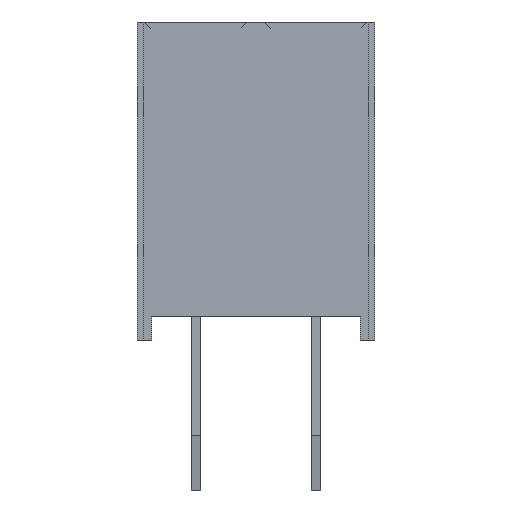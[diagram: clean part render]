
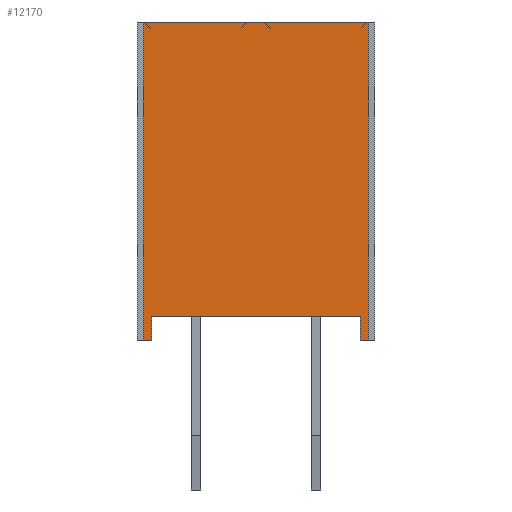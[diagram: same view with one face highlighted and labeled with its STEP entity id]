
A CAD part, left-side view. The second image highlights one B-rep face of the part: STEP entity #12170.
In plain terms, the highlighted planar face has unit normal (-1, 0, 0).
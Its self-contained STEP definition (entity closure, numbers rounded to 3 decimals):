
#112=DIRECTION('',(0.,-1.,0.));
#113=VECTOR('',#112,4.775);
#114=CARTESIAN_POINT('',(-35.56,2.388,0.));
#115=LINE('',#114,#113);
#1024=DIRECTION('',(0.,0.,1.));
#1025=VECTOR('',#1024,0.508);
#1026=CARTESIAN_POINT('',(-35.56,2.21,-6.731));
#1027=LINE('',#1026,#1025);
#1028=DIRECTION('',(0.,0.,-1.));
#1029=VECTOR('',#1028,6.731);
#1030=CARTESIAN_POINT('',(-35.56,2.388,0.));
#1031=LINE('',#1030,#1029);
#1032=DIRECTION('',(0.,0.,1.));
#1033=VECTOR('',#1032,0.508);
#1034=CARTESIAN_POINT('',(-35.56,-2.21,-6.731));
#1035=LINE('',#1034,#1033);
#1036=DIRECTION('',(0.,-1.,0.));
#1037=VECTOR('',#1036,4.42);
#1038=CARTESIAN_POINT('',(-35.56,2.21,-6.223));
#1039=LINE('',#1038,#1037);
#1068=DIRECTION('',(0.,-1.,0.));
#1069=VECTOR('',#1068,0.178);
#1070=CARTESIAN_POINT('',(-35.56,2.388,-6.731));
#1071=LINE('',#1070,#1069);
#1076=DIRECTION('',(0.,-1.,0.));
#1077=VECTOR('',#1076,0.178);
#1078=CARTESIAN_POINT('',(-35.56,-2.21,-6.731));
#1079=LINE('',#1078,#1077);
#5176=DIRECTION('',(0.,0.,-1.));
#5177=VECTOR('',#5176,6.731);
#5178=CARTESIAN_POINT('',(-35.56,-2.388,0.));
#5179=LINE('',#5178,#5177);
#8780=CARTESIAN_POINT('',(-35.56,2.388,0.));
#8781=VERTEX_POINT('',#8780);
#8782=CARTESIAN_POINT('',(-35.56,-2.388,0.));
#8783=VERTEX_POINT('',#8782);
#8804=CARTESIAN_POINT('',(-35.56,2.388,-6.731));
#8805=VERTEX_POINT('',#8804);
#8806=CARTESIAN_POINT('',(-35.56,-2.388,-6.731));
#8808=VERTEX_POINT('',#8806);
#9016=CARTESIAN_POINT('',(-35.56,2.21,-6.731));
#9018=VERTEX_POINT('',#9016);
#9020=CARTESIAN_POINT('',(-35.56,-2.21,-6.731));
#9022=VERTEX_POINT('',#9020);
#9024=CARTESIAN_POINT('',(-35.56,2.21,-6.223));
#9025=VERTEX_POINT('',#9024);
#9026=CARTESIAN_POINT('',(-35.56,-2.21,-6.223));
#9027=VERTEX_POINT('',#9026);
#12149=CARTESIAN_POINT('',(-35.56,2.388,0.));
#12150=DIRECTION('',(-1.,0.,0.));
#12151=DIRECTION('',(0.,-1.,0.));
#12152=AXIS2_PLACEMENT_3D('',#12149,#12150,#12151);
#12153=PLANE('',#12152);
#12155=ORIENTED_EDGE('',*,*,#12154,.F.);
#12157=ORIENTED_EDGE('',*,*,#12156,.F.);
#12158=ORIENTED_EDGE('',*,*,#12141,.F.);
#12159=ORIENTED_EDGE('',*,*,#11553,.T.);
#12161=ORIENTED_EDGE('',*,*,#12160,.T.);
#12163=ORIENTED_EDGE('',*,*,#12162,.F.);
#12165=ORIENTED_EDGE('',*,*,#12164,.T.);
#12167=ORIENTED_EDGE('',*,*,#12166,.F.);
#12168=EDGE_LOOP('',(#12155,#12157,#12158,#12159,#12161,#12163,#12165,#12167));
#12169=FACE_OUTER_BOUND('',#12168,.F.);
#12170=ADVANCED_FACE('',(#12169),#12153,.T.);
#11553=EDGE_CURVE('',#8781,#8783,#115,.T.);
#12141=EDGE_CURVE('',#8781,#8805,#1031,.T.);
#12154=EDGE_CURVE('',#9018,#9025,#1027,.T.);
#12156=EDGE_CURVE('',#8805,#9018,#1071,.T.);
#12160=EDGE_CURVE('',#8783,#8808,#5179,.T.);
#12162=EDGE_CURVE('',#9022,#8808,#1079,.T.);
#12164=EDGE_CURVE('',#9022,#9027,#1035,.T.);
#12166=EDGE_CURVE('',#9025,#9027,#1039,.T.);
